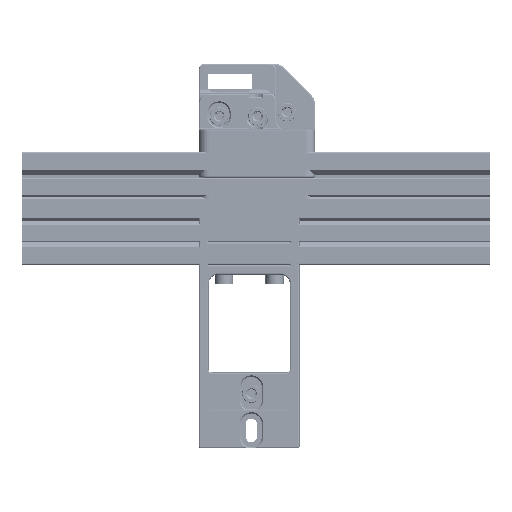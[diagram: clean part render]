
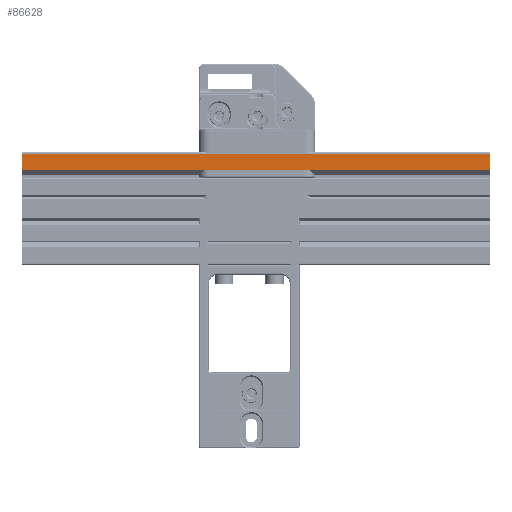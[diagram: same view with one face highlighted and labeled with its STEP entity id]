
A CAD part, front view. The second image highlights one B-rep face of the part: STEP entity #86628.
In plain terms, the highlighted planar face has unit normal (0, -1, 0).
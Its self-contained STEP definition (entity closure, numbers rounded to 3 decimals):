
#3773=PLANE('',#94084);
#6628=FACE_OUTER_BOUND('',#12241,.T.);
#12241=EDGE_LOOP('',(#63706,#63707,#63708,#63709));
#25028=LINE('',#248011,#30551);
#25046=LINE('',#248054,#30569);
#25047=LINE('',#248057,#30570);
#25048=LINE('',#248058,#30571);
#30551=VECTOR('',#107413,10.);
#30569=VECTOR('',#107445,10.);
#30570=VECTOR('',#107448,10.);
#30571=VECTOR('',#107449,10.);
#36947=VERTEX_POINT('',#248008);
#36948=VERTEX_POINT('',#248010);
#36965=VERTEX_POINT('',#248050);
#36967=VERTEX_POINT('',#248056);
#46545=EDGE_CURVE('',#36947,#36948,#25028,.T.);
#46567=EDGE_CURVE('',#36948,#36965,#25046,.T.);
#46568=EDGE_CURVE('',#36947,#36967,#25047,.T.);
#46569=EDGE_CURVE('',#36965,#36967,#25048,.F.);
#63706=ORIENTED_EDGE('',*,*,#46567,.F.);
#63707=ORIENTED_EDGE('',*,*,#46545,.F.);
#63708=ORIENTED_EDGE('',*,*,#46568,.T.);
#63709=ORIENTED_EDGE('',*,*,#46569,.F.);
#86628=ADVANCED_FACE('',(#6628),#3773,.T.);
#94084=AXIS2_PLACEMENT_3D('',#248055,#107446,#107447);
#107413=DIRECTION('',(0.,0.,1.));
#107445=DIRECTION('',(1.,0.,0.));
#107446=DIRECTION('center_axis',(0.,-1.,0.));
#107447=DIRECTION('ref_axis',(0.,0.,
-1.));
#107448=DIRECTION('',(1.,0.,0.));
#107449=DIRECTION('',(0.,0.,1.));
#248008=CARTESIAN_POINT('',(-67.7,43.061,-0.42));
#248010=CARTESIAN_POINT('',(-67.7,43.061,4.5));
#248011=CARTESIAN_POINT('',(-67.7,43.061,0.));
#248050=CARTESIAN_POINT('',(77.3,43.061,4.5));
#248054=CARTESIAN_POINT('',(-97.5,43.061,4.5));
#248055=CARTESIAN_POINT('Origin',(-97.5,43.061,5.));
#248056=CARTESIAN_POINT('',(77.3,43.061,-0.42));
#248057=CARTESIAN_POINT('',(-97.5,43.061,-0.42));
#248058=CARTESIAN_POINT('',(77.3,43.061,0.));
